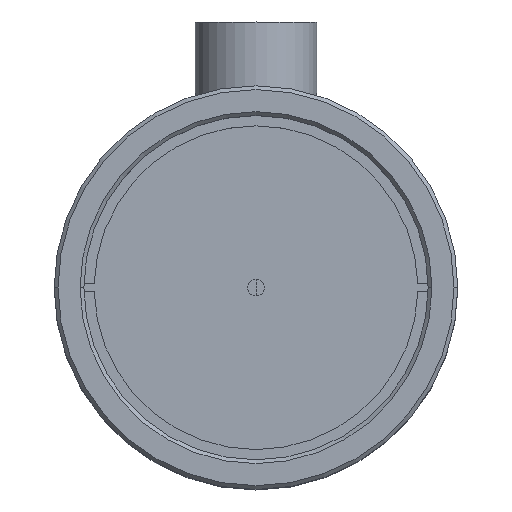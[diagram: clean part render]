
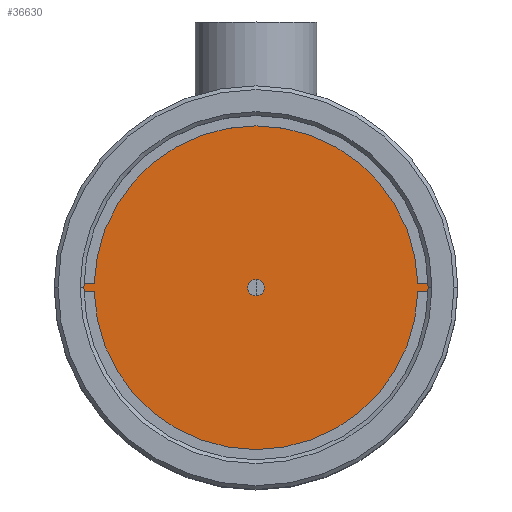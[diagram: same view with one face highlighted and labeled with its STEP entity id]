
A CAD part, top view. The second image highlights one B-rep face of the part: STEP entity #36630.
In plain terms, the highlighted planar face has unit normal (0, 0, 1).
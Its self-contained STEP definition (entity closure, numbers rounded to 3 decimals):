
#2245 = ORIENTED_EDGE ( 'NONE', *, *, #36494, .F. ) ;
#2777 = PLANE ( 'NONE',  #11959 ) ;
#2778 = CARTESIAN_POINT ( 'NONE',  ( -22.745, 0.5, 84.494 ) ) ;
#3287 = ORIENTED_EDGE ( 'NONE', *, *, #34106, .F. ) ;
#4182 = ORIENTED_EDGE ( 'NONE', *, *, #44018, .T. ) ;
#6004 = DIRECTION ( 'NONE',  ( -1., 0., 0. ) ) ;
#6025 = CARTESIAN_POINT ( 'NONE',  ( 0., 1.085, 84.494 ) ) ;
#6189 = DIRECTION ( 'NONE',  ( 0., 0., -1. ) ) ;
#6208 = AXIS2_PLACEMENT_3D ( 'NONE', #11481, #40221, #15915 ) ;
#6231 = CARTESIAN_POINT ( 'NONE',  ( -22.745, -0.5, 84.494 ) ) ;
#6318 = CARTESIAN_POINT ( 'NONE',  ( 0., 0., 84.494 ) ) ;
#6608 = CARTESIAN_POINT ( 'NONE',  ( 21.244, -0.5, 84.494 ) ) ;
#7765 = DIRECTION ( 'NONE',  ( -1., 0., 0. ) ) ;
#8112 = CARTESIAN_POINT ( 'NONE',  ( 0., -0.5, 84.494 ) ) ;
#8300 = EDGE_CURVE ( 'NONE', #44947, #40649, #30079, .T. ) ;
#9010 = CIRCLE ( 'NONE', #41917, 22.75 ) ;
#9126 = AXIS2_PLACEMENT_3D ( 'NONE', #13831, #24664, #31647 ) ;
#9163 = DIRECTION ( 'NONE',  ( -1., 0., 0. ) ) ;
#9721 = LINE ( 'NONE', #8112, #18017 ) ;
#10082 = DIRECTION ( 'NONE',  ( -1., 0., 0. ) ) ;
#11113 = EDGE_LOOP ( 'NONE', ( #32927, #4182 ) ) ;
#11301 = EDGE_CURVE ( 'NONE', #35801, #26855, #37843, .T. ) ;
#11463 = EDGE_CURVE ( 'NONE', #24039, #41458, #19033, .T. ) ;
#11481 = CARTESIAN_POINT ( 'NONE',  ( 0., 0., 84.494 ) ) ;
#11959 = AXIS2_PLACEMENT_3D ( 'NONE', #30932, #44828, #23487 ) ;
#12505 = CIRCLE ( 'NONE', #43937, 1.085 ) ;
#12816 = LINE ( 'NONE', #22415, #25563 ) ;
#13133 = CARTESIAN_POINT ( 'NONE',  ( 0., 0., 84.494 ) ) ;
#13784 = CARTESIAN_POINT ( 'NONE',  ( 0., -1.085, 84.494 ) ) ;
#13831 = CARTESIAN_POINT ( 'NONE',  ( 0., 0., 84.494 ) ) ;
#14737 = CARTESIAN_POINT ( 'NONE',  ( 0., 0., 84.494 ) ) ;
#15915 = DIRECTION ( 'NONE',  ( -1., 0., 0. ) ) ;
#17637 = EDGE_CURVE ( 'NONE', #37756, #31499, #40943, .T. ) ;
#18017 = VECTOR ( 'NONE', #22500, 1000. ) ;
#18246 = VERTEX_POINT ( 'NONE', #34702 ) ;
#18661 = AXIS2_PLACEMENT_3D ( 'NONE', #23232, #30352, #9163 ) ;
#18710 = VERTEX_POINT ( 'NONE', #2778 ) ;
#19033 = CIRCLE ( 'NONE', #6208, 1.085 ) ;
#19787 = CARTESIAN_POINT ( 'NONE',  ( 0., 0., 84.494 ) ) ;
#21236 = DIRECTION ( 'NONE',  ( 0., 0., -1. ) ) ;
#21460 = ORIENTED_EDGE ( 'NONE', *, *, #44389, .F. ) ;
#21766 = CARTESIAN_POINT ( 'NONE',  ( -21.244, -0.5, 84.494 ) ) ;
#22260 = DIRECTION ( 'NONE',  ( 1., 0., 0. ) ) ;
#22415 = CARTESIAN_POINT ( 'NONE',  ( 0., 0.5, 84.494 ) ) ;
#22500 = DIRECTION ( 'NONE',  ( -1., 0., 0. ) ) ;
#22852 = FACE_OUTER_BOUND ( 'NONE', #43357, .T. ) ;
#23048 = DIRECTION ( 'NONE',  ( -1., 0., 0. ) ) ;
#23232 = CARTESIAN_POINT ( 'NONE',  ( 0., 0., 84.494 ) ) ;
#23345 = DIRECTION ( 'NONE',  ( 0., 0., -1. ) ) ;
#23487 = DIRECTION ( 'NONE',  ( -1., 0., 0. ) ) ;
#23807 = DIRECTION ( 'NONE',  ( -1., 0., 0. ) ) ;
#24020 = LINE ( 'NONE', #29950, #45594 ) ;
#24039 = VERTEX_POINT ( 'NONE', #6025 ) ;
#24090 = LINE ( 'NONE', #31291, #27940 ) ;
#24309 = EDGE_CURVE ( 'NONE', #18710, #37756, #12816, .T. ) ;
#24600 = CARTESIAN_POINT ( 'NONE',  ( -22.75, 0., 84.494 ) ) ;
#24664 = DIRECTION ( 'NONE',  ( 0., 0., -1. ) ) ;
#25563 = VECTOR ( 'NONE', #22260, 1000. ) ;
#25715 = ORIENTED_EDGE ( 'NONE', *, *, #8300, .F. ) ;
#25929 = CARTESIAN_POINT ( 'NONE',  ( 22.75, 0., 84.494 ) ) ;
#26039 = CIRCLE ( 'NONE', #9126, 22.75 ) ;
#26855 = VERTEX_POINT ( 'NONE', #24600 ) ;
#26885 = ORIENTED_EDGE ( 'NONE', *, *, #17637, .F. ) ;
#27940 = VECTOR ( 'NONE', #10082, 1000. ) ;
#29950 = CARTESIAN_POINT ( 'NONE',  ( 0., 0.5, 84.494 ) ) ;
#30079 = CIRCLE ( 'NONE', #40508, 21.25 ) ;
#30352 = DIRECTION ( 'NONE',  ( 0., 0., -1. ) ) ;
#30716 = CIRCLE ( 'NONE', #37683, 22.75 ) ;
#30932 = CARTESIAN_POINT ( 'NONE',  ( 0., 0., 84.494 ) ) ;
#31291 = CARTESIAN_POINT ( 'NONE',  ( 0., -0.5, 84.494 ) ) ;
#31306 = AXIS2_PLACEMENT_3D ( 'NONE', #13133, #6189, #23807 ) ;
#31499 = VERTEX_POINT ( 'NONE', #35561 ) ;
#31647 = DIRECTION ( 'NONE',  ( -1., 0., 0. ) ) ;
#31653 = EDGE_CURVE ( 'NONE', #31499, #42760, #24020, .T. ) ;
#32226 = CARTESIAN_POINT ( 'NONE',  ( -21.244, 0.5, 84.494 ) ) ;
#32689 = CARTESIAN_POINT ( 'NONE',  ( 0., 0., 84.494 ) ) ;
#32927 = ORIENTED_EDGE ( 'NONE', *, *, #11463, .T. ) ;
#34106 = EDGE_CURVE ( 'NONE', #40649, #35801, #9721, .T. ) ;
#34229 = ORIENTED_EDGE ( 'NONE', *, *, #11301, .F. ) ;
#34702 = CARTESIAN_POINT ( 'NONE',  ( 22.745, -0.5, 84.494 ) ) ;
#34739 = EDGE_CURVE ( 'NONE', #26855, #18710, #30716, .T. ) ;
#35561 = CARTESIAN_POINT ( 'NONE',  ( 21.244, 0.5, 84.494 ) ) ;
#35801 = VERTEX_POINT ( 'NONE', #6231 ) ;
#36055 = ORIENTED_EDGE ( 'NONE', *, *, #31653, .F. ) ;
#36106 = DIRECTION ( 'NONE',  ( -1., 0., 0. ) ) ;
#36494 = EDGE_CURVE ( 'NONE', #36924, #18246, #9010, .T. ) ;
#36630 = ADVANCED_FACE ( 'NONE', ( #37224, #22852 ), #2777, .F. ) ;
#36924 = VERTEX_POINT ( 'NONE', #25929 ) ;
#37224 = FACE_BOUND ( 'NONE', #11113, .T. ) ;
#37683 = AXIS2_PLACEMENT_3D ( 'NONE', #6318, #44965, #6004 ) ;
#37756 = VERTEX_POINT ( 'NONE', #32226 ) ;
#37843 = CIRCLE ( 'NONE', #18661, 22.75 ) ;
#37901 = ORIENTED_EDGE ( 'NONE', *, *, #39569, .F. ) ;
#39569 = EDGE_CURVE ( 'NONE', #42760, #36924, #26039, .T. ) ;
#40221 = DIRECTION ( 'NONE',  ( 0., 0., -1. ) ) ;
#40333 = DIRECTION ( 'NONE',  ( 1., 0., 0. ) ) ;
#40508 = AXIS2_PLACEMENT_3D ( 'NONE', #14737, #21236, #7765 ) ;
#40649 = VERTEX_POINT ( 'NONE', #21766 ) ;
#40943 = CIRCLE ( 'NONE', #31306, 21.25 ) ;
#41458 = VERTEX_POINT ( 'NONE', #13784 ) ;
#41917 = AXIS2_PLACEMENT_3D ( 'NONE', #19787, #23345, #23048 ) ;
#42083 = ORIENTED_EDGE ( 'NONE', *, *, #34739, .F. ) ;
#42757 = CARTESIAN_POINT ( 'NONE',  ( 22.745, 0.5, 84.494 ) ) ;
#42760 = VERTEX_POINT ( 'NONE', #42757 ) ;
#43204 = DIRECTION ( 'NONE',  ( 0., 0., -1. ) ) ;
#43357 = EDGE_LOOP ( 'NONE', ( #26885, #44822, #42083, #34229, #3287, #25715, #21460, #2245, #37901, #36055 ) ) ;
#43937 = AXIS2_PLACEMENT_3D ( 'NONE', #32689, #43204, #36106 ) ;
#44018 = EDGE_CURVE ( 'NONE', #41458, #24039, #12505, .T. ) ;
#44389 = EDGE_CURVE ( 'NONE', #18246, #44947, #24090, .T. ) ;
#44822 = ORIENTED_EDGE ( 'NONE', *, *, #24309, .F. ) ;
#44828 = DIRECTION ( 'NONE',  ( 0., 0., -1. ) ) ;
#44947 = VERTEX_POINT ( 'NONE', #6608 ) ;
#44965 = DIRECTION ( 'NONE',  ( 0., 0., -1. ) ) ;
#45594 = VECTOR ( 'NONE', #40333, 1000. ) ;
